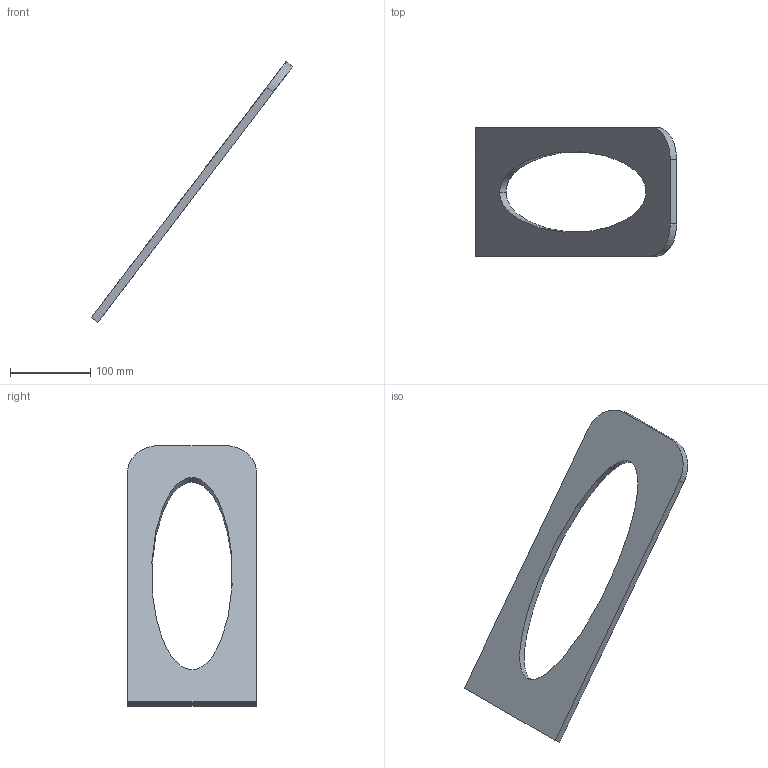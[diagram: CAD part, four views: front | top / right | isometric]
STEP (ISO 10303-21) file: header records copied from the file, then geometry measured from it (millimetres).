
FILE_DESCRIPTION(('FreeCAD Model'),'2;1');
FILE_NAME('C:/Users/Sergio Pluchinsky/Downloads/04.10.0004_Stuetze_Achsplatte.step', '2017-11-27T19:20:03',('Author'),(''), 'Open CASCADE STEP processor 7.1','FreeCAD','Unknown');
FILE_SCHEMA(('AUTOMOTIVE_DESIGN { 1 0 10303 214 1 1 1 1 }'));
Length unit declared in the file: millimetre
Products named in the file (1): 04.10.0004_Stuetze_Achsplatte
Bounding box: 250.26 x 160 x 324.31 mm (x, y, z)
Volume: 396407.2 mm3; surface area: 96825.5 mm2
Topology: 1 solids, 1 shells, 10 faces, 24 edges, 16 vertices
Faces by surface type: plane 6, bspline 2, cylinder 2
Entity records: 779 total; most frequent: CARTESIAN_POINT 255, DIRECTION 96, LINE 54, VECTOR 54, ORIENTED_EDGE 48, PCURVE 48, DEFINITIONAL_REPRESENTATION 48, EDGE_CURVE 24
